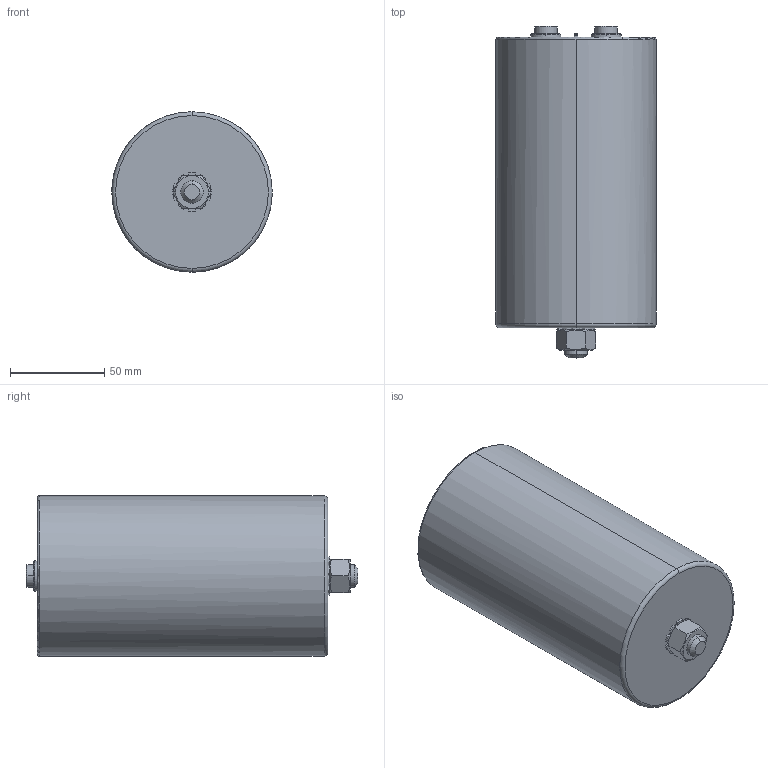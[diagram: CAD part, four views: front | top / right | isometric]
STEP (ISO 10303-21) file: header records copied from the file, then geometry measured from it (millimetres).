
FILE_DESCRIPTION (( 'STEP AP214' ), '1' );
FILE_NAME ('B25694M Series D85 Hc154 Ht160.STEP', '2025-07-24T05:20:14', ( '' ), ( '' ), 'SwSTEP 2.0', 'SolidWorks 2019', '' );
FILE_SCHEMA (( 'AUTOMOTIVE_DESIGN' ));
Length unit declared in the file: millimetre
Products named in the file (1): B25694M Series D85 Hc154 Ht160
Bounding box: 85 x 176 x 85 mm (x, y, z)
Volume: 878578.2 mm3; surface area: 53929.7 mm2
Topology: 1 solids, 2 shells, 137 faces, 331 edges, 202 vertices
Faces by surface type: plane 59, cylinder 48, cone 22, torus 8
Entity records: 4131 total; most frequent: CARTESIAN_POINT 799, DIRECTION 761, ORIENTED_EDGE 654, EDGE_CURVE 327, AXIS2_PLACEMENT_3D 308, VERTEX_POINT 202, CIRCLE 170, EDGE_LOOP 147
